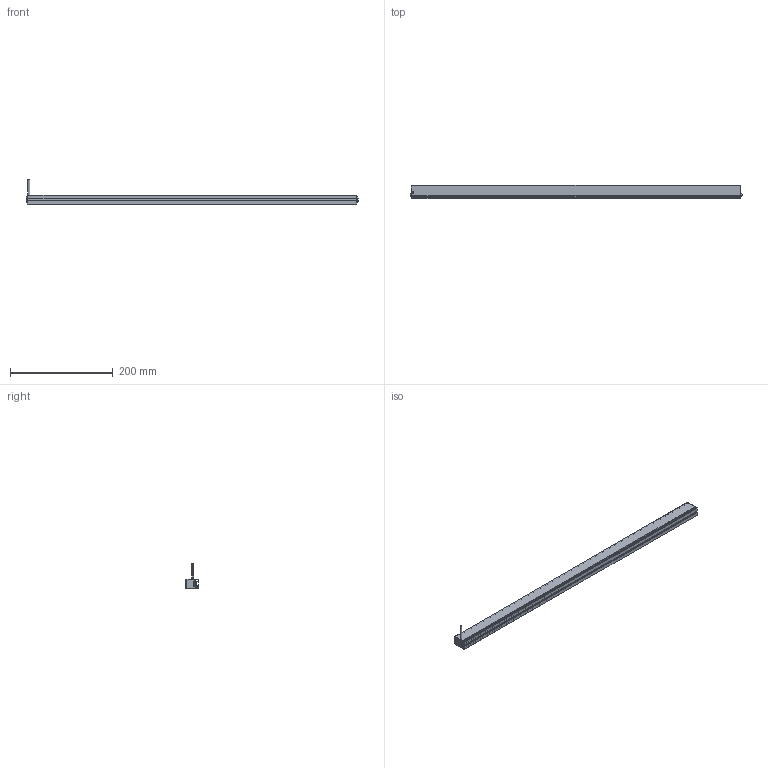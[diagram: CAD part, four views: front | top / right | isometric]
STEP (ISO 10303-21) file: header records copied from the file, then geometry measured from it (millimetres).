
FILE_DESCRIPTION((''),'2;1');
FILE_NAME('MV-LLDS-642-18_ASM','2020-12-30T',('Administrator'),(''),'PRO/ENGINEER BY PARAMETRIC TECHNOLOGY CORPORATION, 2010100','PRO/ENGINEER BY PARAMETRIC TECHNOLOGY CORPORATION, 2010100','');
FILE_SCHEMA(('CONFIG_CONTROL_DESIGN'));
Length unit declared in the file: millimetre
Products named in the file (3): BL_2_-_3_; PRT0008; MV-LLDS-642-18_ASM
Assembly tree (5 placements, depth 2):
  MV-LLDS-642-18_ASM
    BL_2_-_3_
    PRT0008  x4
Bounding box: 646.68 x 27 x 48 mm (x, y, z)
Volume: 255296.3 mm3; surface area: 113419 mm2
Topology: 5 solids, 13 shells, 327 faces, 872 edges, 560 vertices
Faces by surface type: plane 213, cylinder 66, cone 16, bspline 16, torus 8, sphere 8
Entity records: 7485 total; most frequent: CARTESIAN_POINT 1567, ORIENTED_EDGE 1214, DIRECTION 1184, EDGE_CURVE 617, VECTOR 472, LINE 472, VERTEX_POINT 401, AXIS2_PLACEMENT_3D 356
